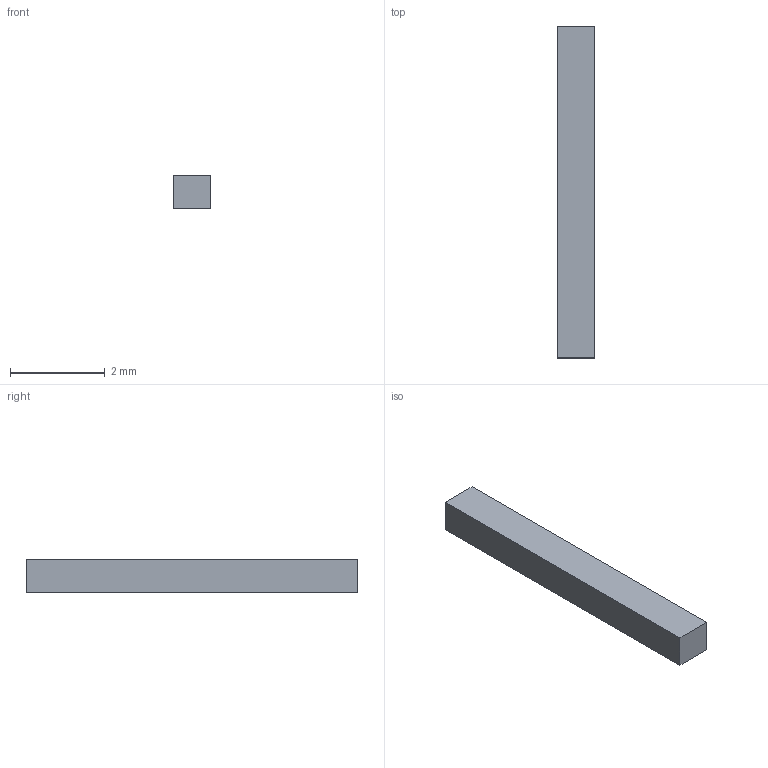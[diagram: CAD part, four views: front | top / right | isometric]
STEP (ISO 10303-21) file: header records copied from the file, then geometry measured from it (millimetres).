
FILE_DESCRIPTION(('Open CASCADE Model'),'2;1');
FILE_NAME('C27_R2_PCB_Rear_Preload_1','2026-09-09T17:52:57',('Author'),( 'Open CASCADE'),'Open CASCADE STEP processor 7.9','build123d', 'Unknown');
FILE_SCHEMA(('AUTOMOTIVE_DESIGN { 1 0 10303 214 1 1 1 1 }'));
Length unit declared in the file: millimetre
Products named in the file (1): C27_R2_PCB_Rear_Preload_1
Bounding box: 0.8 x 7 x 0.71 mm (x, y, z)
Volume: 4 mm3; surface area: 22.3 mm2
Topology: 1 solids, 1 shells, 6 faces, 12 edges, 8 vertices
Faces by surface type: plane 6
Entity records: 322 total; most frequent: CARTESIAN_POINT 51, DIRECTION 50, LINE 36, VECTOR 36, ORIENTED_EDGE 24, PCURVE 24, DEFINITIONAL_REPRESENTATION 24, EDGE_CURVE 12
